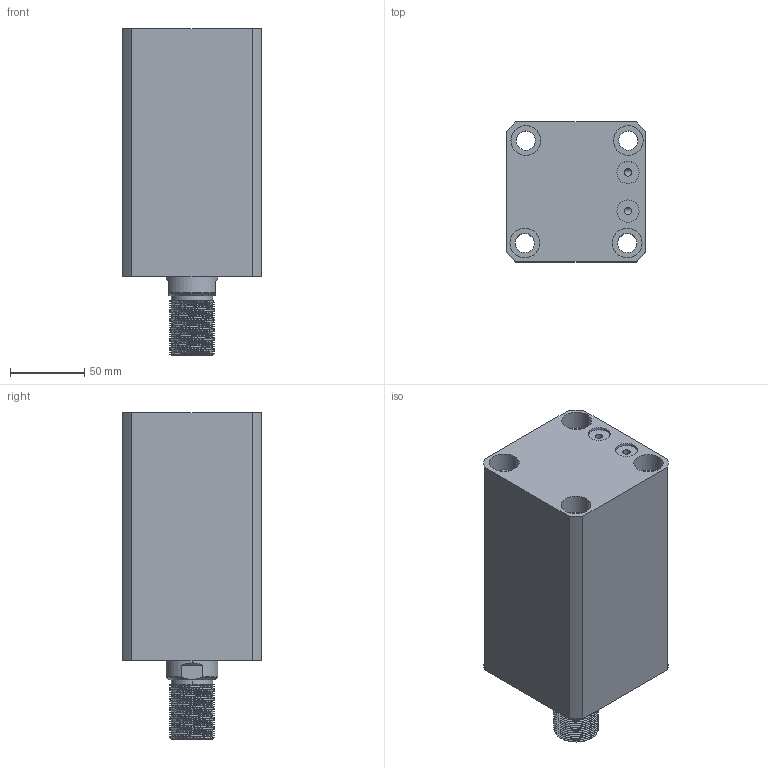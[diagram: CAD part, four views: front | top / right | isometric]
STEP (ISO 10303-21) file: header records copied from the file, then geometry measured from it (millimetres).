
FILE_DESCRIPTION (( 'STEP AP214' ), '1' );
FILE_NAME ('chtb-sdmb63x100w_asm.STEP', '2018-05-18T12:59:03', ( 'Windows' ), ( 'Microsoft' ), 'SwSTEP 2.0', 'SolidWorks 2015', '' );
FILE_SCHEMA (( 'AUTOMOTIVE_DESIGN' ));
Length unit declared in the file: millimetre
Products named in the file (4): CHTB-SDMB63X100NBT; CHTB63X100WHSG; CHTB-63QG; chtb-sdmb63x100w_asm
Assembly tree (3 placements, depth 2):
  chtb-sdmb63x100w_asm
    CHTB-63QG
    CHTB63X100WHSG
    CHTB-SDMB63X100NBT
Bounding box: 94 x 94 x 220 mm (x, y, z)
Volume: 1174749.4 mm3; surface area: 192476.9 mm2
Topology: 3 solids, 3 shells, 218 faces, 628 edges, 427 vertices
Faces by surface type: cylinder 156, plane 33, bspline 14, cone 9, torus 6
Entity records: 22278 total; most frequent: CARTESIAN_POINT 17042, ORIENTED_EDGE 1248, DIRECTION 869, EDGE_CURVE 624, VERTEX_POINT 427, AXIS2_PLACEMENT_3D 339, EDGE_LOOP 251, ADVANCED_FACE 218
